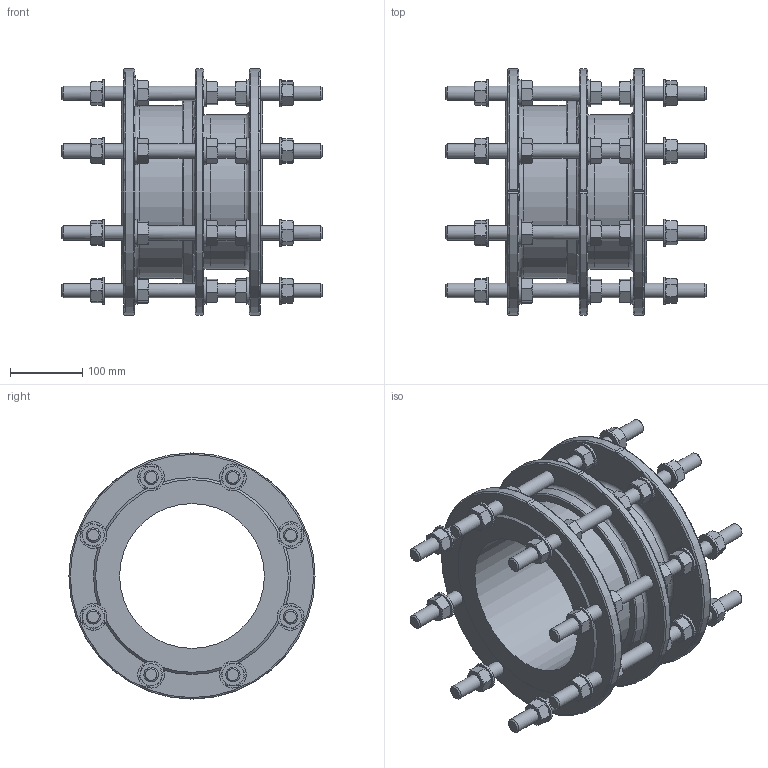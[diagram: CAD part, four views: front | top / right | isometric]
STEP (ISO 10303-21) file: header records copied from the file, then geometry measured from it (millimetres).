
FILE_DESCRIPTION (( 'STEP AP203' ), '1' );
FILE_NAME ('O_265_911_DN200_0XXXXX01_L=195_REV01.step', '2024-12-12T07:46:40', ( '' ), ( '' ), 'SwSTEP 2.0', 'SolidWorks 2022', '' );
FILE_SCHEMA (( 'CONFIG_CONTROL_DESIGN' ));
Length unit declared in the file: millimetre
Products named in the file (1): O_265_911_DN200_0XXXXX01_L=195_REV01
Bounding box: 360 x 340 x 339.96 mm (x, y, z)
Volume: 5469536.5 mm3; surface area: 791837.5 mm2
Topology: 1 solids, 1 shells, 1028 faces, 2283 edges, 1372 vertices
Faces by surface type: cone 500, plane 412, cylinder 100, torus 16
Full cylindrical faces by diameter (mm): 20 x48, 37 x40, 200 x1, 213 x2, 239 x1
Entity records: 31456 total; most frequent: CARTESIAN_POINT 10958, ORIENTED_EDGE 4212, DIRECTION 3897, EDGE_CURVE 2106, AXIS2_PLACEMENT_3D 1754, VERTEX_POINT 1311, EDGE_LOOP 1293, FACE_OUTER_BOUND 1124
